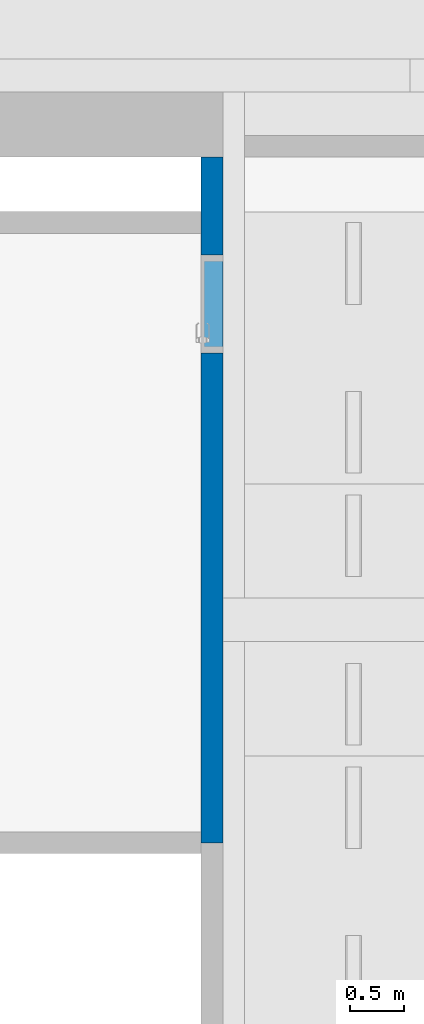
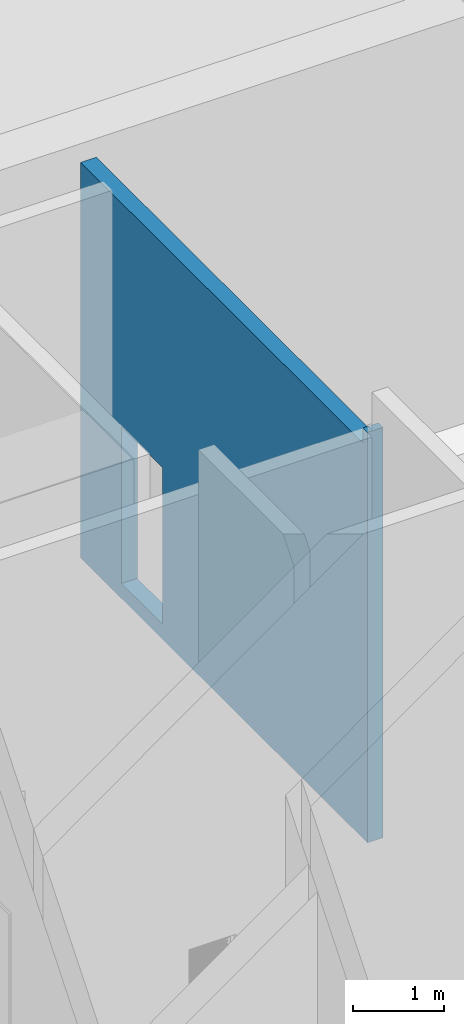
# One storey, part 13 of 29: 1 wall, 1 opening.
"""IFC2X3 building model written with IfcOpenShell, lengths in millimetres."""

from ifc_helpers import new_model, entity, si_unit, converted_unit, derived_unit, direction, frame, frame_2d, origin, place, context, subcontext, project, spatial, polyline, rectangle, extrude, clip, bounded_halfspace, material, layer, layer_set, layer_usage, type_object, element, save


model = new_model("IFC2X3")

# Units and contexts
model_context = context("Model", 3, precision=0.01, world=origin(), true_north=direction((6.123031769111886e-17, 1.0)))
body_context = subcontext(model_context, "Body", "Model", "MODEL_VIEW")
ifc_project = project(units=[si_unit("LENGTHUNIT", "METRE", prefix="MILLI"), si_unit("AREAUNIT", "SQUARE_METRE"), si_unit("VOLUMEUNIT", "CUBIC_METRE"), converted_unit("PLANEANGLEUNIT", "DEGREE", entity("IfcRatioMeasure", 0.017453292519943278), si_unit("PLANEANGLEUNIT", "RADIAN"), dimensions=[0, 0, 0, 0, 0, 0, 0]), si_unit("MASSUNIT", "GRAM", prefix="KILO"), derived_unit("MASSDENSITYUNIT", [(si_unit("MASSUNIT", "GRAM", prefix="KILO"), 1), (si_unit("LENGTHUNIT", "METRE"), -3)]), derived_unit("MOMENTOFINERTIAUNIT", [(si_unit("LENGTHUNIT", "METRE"), 4)]), si_unit("TIMEUNIT", "SECOND"), si_unit("FREQUENCYUNIT", "HERTZ"), si_unit("THERMODYNAMICTEMPERATUREUNIT", "DEGREE_CELSIUS"), derived_unit("THERMALTRANSMITTANCEUNIT", [(si_unit("MASSUNIT", "GRAM", prefix="KILO"), 1), (si_unit("THERMODYNAMICTEMPERATUREUNIT", "KELVIN"), -1), (si_unit("TIMEUNIT", "SECOND"), -3)]), derived_unit("VOLUMETRICFLOWRATEUNIT", [(si_unit("LENGTHUNIT", "METRE"), 3), (si_unit("TIMEUNIT", "SECOND"), -1)]), derived_unit("MASSFLOWRATEUNIT", [(si_unit("MASSUNIT", "GRAM", prefix="KILO"), 1), (si_unit("TIMEUNIT", "SECOND"), -1)]), derived_unit("ROTATIONALFREQUENCYUNIT", [(si_unit("TIMEUNIT", "SECOND"), -1)]), si_unit("ELECTRICCURRENTUNIT", "AMPERE"), si_unit("ELECTRICVOLTAGEUNIT", "VOLT"), si_unit("POWERUNIT", "WATT"), si_unit("FORCEUNIT", "NEWTON", prefix="KILO"), si_unit("ILLUMINANCEUNIT", "LUX"), si_unit("LUMINOUSFLUXUNIT", "LUMEN"), si_unit("LUMINOUSINTENSITYUNIT", "CANDELA"), derived_unit("USERDEFINED", [(si_unit("MASSUNIT", "GRAM", prefix="KILO"), -1), (si_unit("LENGTHUNIT", "METRE"), -2), (si_unit("TIMEUNIT", "SECOND"), 3), (si_unit("LUMINOUSFLUXUNIT", "LUMEN"), 1)]), derived_unit("SOUNDPOWERUNIT", [(si_unit("MASSUNIT", "GRAM", prefix="KILO"), 1), (si_unit("LENGTHUNIT", "METRE"), 2), (si_unit("TIMEUNIT", "SECOND"), -3)]), derived_unit("SOUNDPRESSUREUNIT", [(si_unit("MASSUNIT", "GRAM", prefix="KILO"), 1), (si_unit("LENGTHUNIT", "METRE"), -1), (si_unit("TIMEUNIT", "SECOND"), -2)]), derived_unit("LINEARVELOCITYUNIT", [(si_unit("LENGTHUNIT", "METRE"), 1), (si_unit("TIMEUNIT", "SECOND"), -1)]), si_unit("PRESSUREUNIT", "PASCAL"), derived_unit("USERDEFINED", [(si_unit("LENGTHUNIT", "METRE"), -2), (si_unit("MASSUNIT", "GRAM", prefix="KILO"), 1), (si_unit("TIMEUNIT", "SECOND"), -2)]), derived_unit("LINEARFORCEUNIT", [(si_unit("MASSUNIT", "GRAM", prefix="KILO"), 1), (si_unit("LENGTHUNIT", "METRE"), 1), (si_unit("TIMEUNIT", "SECOND"), -2), (si_unit("LENGTHUNIT", "METRE"), -1)]), derived_unit("PLANARFORCEUNIT", [(si_unit("MASSUNIT", "GRAM", prefix="KILO"), 1), (si_unit("LENGTHUNIT", "METRE"), 1), (si_unit("TIMEUNIT", "SECOND"), -2), (si_unit("LENGTHUNIT", "METRE"), -2)])], contexts=[model_context])

# Site, building, storey
site_placement = place(None, frame((-14167.972527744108, -657.2125860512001, 0.0)))
site = spatial("IfcSite", under=ifc_project, at=site_placement, Name="Default", CompositionType="ELEMENT")
building_placement = place(site_placement, origin())
building = spatial("IfcBuilding", under=site, at=building_placement, Name="Sample Building", CompositionType="ELEMENT")
storey_placement = place(building_placement, frame((0.0, 0.0, -6100.0)))
storey = spatial("IfcBuildingStorey", under=building, at=storey_placement, Name="지하1층", CompositionType="ELEMENT", Elevation=-6099.999999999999)

# Wall, opening
ifc_material = material(Name="KBIMS-콘크리트")
ifc_layer = layer(ifc_material, 200.0)
ifc_layer_set = layer_set([ifc_layer], Name="기본 벽:WA111-철근콘크리트구조 벽 200mm_CW1")
ifc_layer_usage = layer_usage(ifc_layer_set, "AXIS2", "NEGATIVE", 100.0)
wall_type = type_object("IfcWallType", Name="기본 벽:WA111-철근콘크리트구조 벽 200mm_CW1", PredefinedType="STANDARD", material=ifc_layer_set)
wall_placement = place(storey_placement, frame((35867.972491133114, 28657.212307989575, 0.0), z_axis=(0.0, 0.0, 1.0), x_axis=(0.0, -1.0, 0.0)))
wall = element("IfcWallStandardCase", 1, at=wall_placement, inside=storey, type_object=wall_type, material=ifc_layer_usage, Name="기본 벽:WA111-철근콘크리트구조 벽 200mm_CW1", ObjectType="기본 벽:WA111-철근콘크리트구조 벽 200mm_CW1", context=body_context, shape_type="Clipping", body=[
    clip(clip(extrude(rectangle(XDim=200.00000000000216, YDim=6299.999996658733, at=frame_2d((3149.9999983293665, -1.0089706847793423e-12), x_axis=(0.0, -1.0))), origin(), (0.0, 0.0, 1.0), 5500.0), bounded_halfspace(frame((6200.0, -100.0, 5300.0), z_axis=(0.0, 0.0, -1.0), x_axis=(1.0, 0.0, 0.0)), True, frame((6200.0, -100.0, 5300.0), z_axis=(0.0, 0.0, -1.0), x_axis=(1.0, 0.0, 0.0)), polyline([(0.0, 0.0), (-95665.99322771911, 1.1738279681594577e-09), (-1676400.0, -1.3167664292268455e-09), (-1676400.0, -60960.0), (-95665.99322771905, -60960.0), (0.0, -60960.0), (0.0, 0.0)]))), bounded_halfspace(frame((0.0, -100.0, 0.0), z_axis=(1.0, 0.0, 0.0), x_axis=(0.0, 1.0, 0.0)), True, frame((0.0, -100.0, 0.0), z_axis=(1.0, 0.0, 0.0), x_axis=(0.0, 1.0, 0.0)), polyline([(0.0, 0.0), (60960.0, 0.0), (60960.0, 1676400.0), (0.0, 1676400.0), (0.0, 0.0)]))),
])
opening_placement = place(wall_placement, frame((1800.0000327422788, 100.0, 200.0)))
element("IfcOpeningElement", 2, at=opening_placement, cuts=wall, Name="DR111-외여닫이문(철재, 일반):DR111-외여닫이문(철재, 일반) 900x2100mm:1", ObjectType="Opening", context=body_context, shape_type="SweptSolid", body=[
    extrude(rectangle(XDim=2099.999999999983, YDim=900.0000000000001, at=frame_2d((1049.9999999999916, 450.00000000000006), x_axis=(1.0, 0.0))), frame((0.0, 0.0, 0.0), z_axis=(0.0, -1.0, 0.0), x_axis=(0.0, 0.0, 1.0)), (0.0, 0.0, 1.0), 200.0),
])

save(model, "model.ifc")
